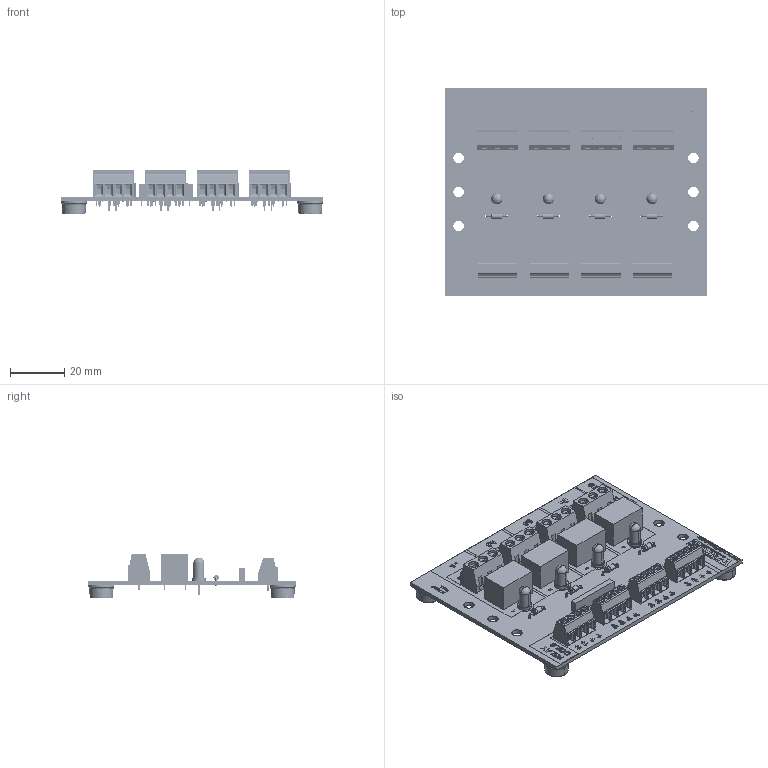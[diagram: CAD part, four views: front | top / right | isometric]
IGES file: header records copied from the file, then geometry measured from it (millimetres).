
Start section: SolidWorks IGES file using analytic representation for surfaces
Global section: file name: W:\end-user\products\rlp\rlp304\3dmodel\render\rlp304-xxv-ft_rev_a.igs; native system: SolidWorks 2018; preprocessor: SolidWorks 2018; author: leviroy; date: 220805.124237; units: inch
Bounding box: 96.52 x 76.2 x 16.49 mm (x, y, z)
Surface area: 33488.9 mm2 (no closed solid volume)
Topology: 0 solids, 0 shells, 3785 faces, 33894 edges, 33890 vertices
Faces by surface type: bspline 3221, revolution 564
